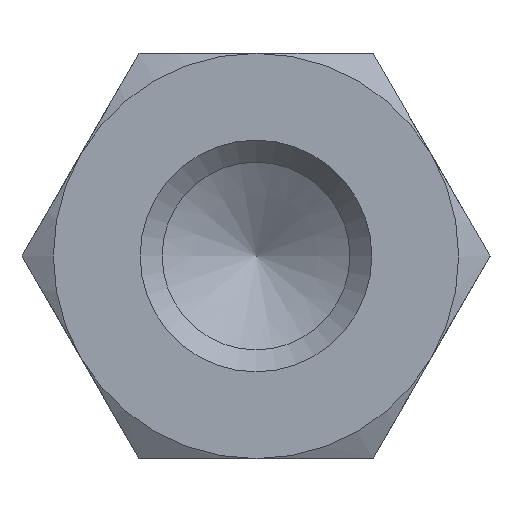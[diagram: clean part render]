
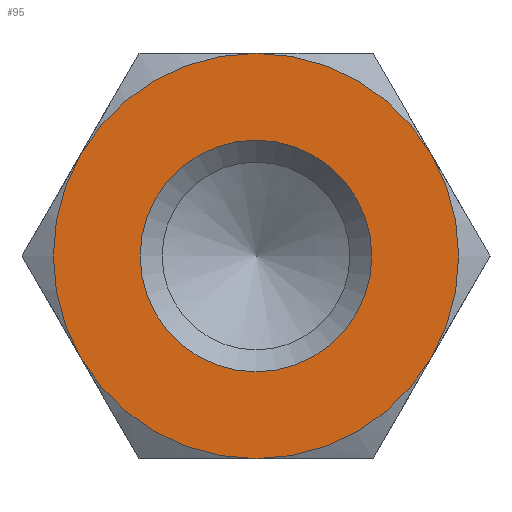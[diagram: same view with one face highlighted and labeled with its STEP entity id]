
A CAD part, left-side view. The second image highlights one B-rep face of the part: STEP entity #95.
In plain terms, the highlighted planar face has unit normal (-1, 0, 0).
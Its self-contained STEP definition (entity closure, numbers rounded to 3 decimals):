
#95 = ADVANCED_FACE( '', ( #147, #148 ), #149, .F. );
#147 = FACE_OUTER_BOUND( '', #206, .T. );
#148 = FACE_BOUND( '', #207, .T. );
#149 = PLANE( '', #208 );
#206 = EDGE_LOOP( '', ( #356, #357, #358, #359, #360, #361 ) );
#207 = EDGE_LOOP( '', ( #362 ) );
#208 = AXIS2_PLACEMENT_3D( '', #363, #364, #365 );
#356 = ORIENTED_EDGE( '', *, *, #440, .F. );
#357 = ORIENTED_EDGE( '', *, *, #425, .F. );
#358 = ORIENTED_EDGE( '', *, *, #441, .F. );
#359 = ORIENTED_EDGE( '', *, *, #437, .F. );
#360 = ORIENTED_EDGE( '', *, *, #442, .F. );
#361 = ORIENTED_EDGE( '', *, *, #443, .F. );
#362 = ORIENTED_EDGE( '', *, *, #439, .T. );
#363 = CARTESIAN_POINT( '', ( -40., 0., 0. ) );
#364 = DIRECTION( '', ( 1., 0., 0. ) );
#365 = DIRECTION( '', ( 0., 0., -1. ) );
#425 = EDGE_CURVE( '', #495, #493, #497, .T. );
#437 = EDGE_CURVE( '', #447, #506, #513, .T. );
#439 = EDGE_CURVE( '', #516, #516, #517, .T. );
#440 = EDGE_CURVE( '', #493, #486, #518, .T. );
#441 = EDGE_CURVE( '', #506, #495, #519, .T. );
#442 = EDGE_CURVE( '', #481, #447, #520, .T. );
#443 = EDGE_CURVE( '', #486, #481, #521, .T. );
#447 = VERTEX_POINT( '', #525 );
#481 = VERTEX_POINT( '', #595 );
#486 = VERTEX_POINT( '', #611 );
#493 = VERTEX_POINT( '', #632 );
#495 = VERTEX_POINT( '', #637 );
#497 = CIRCLE( '', #644, 3.5 );
#506 = VERTEX_POINT( '', #670 );
#513 = CIRCLE( '', #701, 3.5 );
#516 = VERTEX_POINT( '', #704 );
#517 = CIRCLE( '', #705, 2. );
#518 = CIRCLE( '', #706, 3.5 );
#519 = CIRCLE( '', #707, 3.5 );
#520 = CIRCLE( '', #708, 3.5 );
#521 = CIRCLE( '', #709, 3.5 );
#525 = CARTESIAN_POINT( '', ( -40., -3.031, 1.75 ) );
#595 = CARTESIAN_POINT( '', ( -40., 0., 3.5 ) );
#611 = CARTESIAN_POINT( '', ( -40., 3.031, 1.75 ) );
#632 = CARTESIAN_POINT( '', ( -40., 3.031, -1.75 ) );
#637 = CARTESIAN_POINT( '', ( -40., 0., -3.5 ) );
#644 = AXIS2_PLACEMENT_3D( '', #744, #745, #746 );
#670 = CARTESIAN_POINT( '', ( -40., -3.031, -1.75 ) );
#701 = AXIS2_PLACEMENT_3D( '', #749, #750, #751 );
#704 = CARTESIAN_POINT( '', ( -40., 2., 0. ) );
#705 = AXIS2_PLACEMENT_3D( '', #755, #756, #757 );
#706 = AXIS2_PLACEMENT_3D( '', #758, #759, #760 );
#707 = AXIS2_PLACEMENT_3D( '', #761, #762, #763 );
#708 = AXIS2_PLACEMENT_3D( '', #764, #765, #766 );
#709 = AXIS2_PLACEMENT_3D( '', #767, #768, #769 );
#744 = CARTESIAN_POINT( '', ( -40., 0., 0. ) );
#745 = DIRECTION( '', ( 1., 0., 0. ) );
#746 = DIRECTION( '', ( 0., 0., -1. ) );
#749 = CARTESIAN_POINT( '', ( -40., 0., 0. ) );
#750 = DIRECTION( '', ( 1., 0., 0. ) );
#751 = DIRECTION( '', ( 0., 0., -1. ) );
#755 = CARTESIAN_POINT( '', ( -40., 0., 0. ) );
#756 = DIRECTION( '', ( 1., 0., 0. ) );
#757 = DIRECTION( '', ( 0., 1., 0. ) );
#758 = CARTESIAN_POINT( '', ( -40., 0., 0. ) );
#759 = DIRECTION( '', ( 1., 0., 0. ) );
#760 = DIRECTION( '', ( 0., 0., -1. ) );
#761 = CARTESIAN_POINT( '', ( -40., 0., 0. ) );
#762 = DIRECTION( '', ( 1., 0., 0. ) );
#763 = DIRECTION( '', ( 0., 0., -1. ) );
#764 = CARTESIAN_POINT( '', ( -40., 0., 0. ) );
#765 = DIRECTION( '', ( 1., 0., 0. ) );
#766 = DIRECTION( '', ( 0., 0., -1. ) );
#767 = CARTESIAN_POINT( '', ( -40., 0., 0. ) );
#768 = DIRECTION( '', ( 1., 0., 0. ) );
#769 = DIRECTION( '', ( 0., 0., -1. ) );
